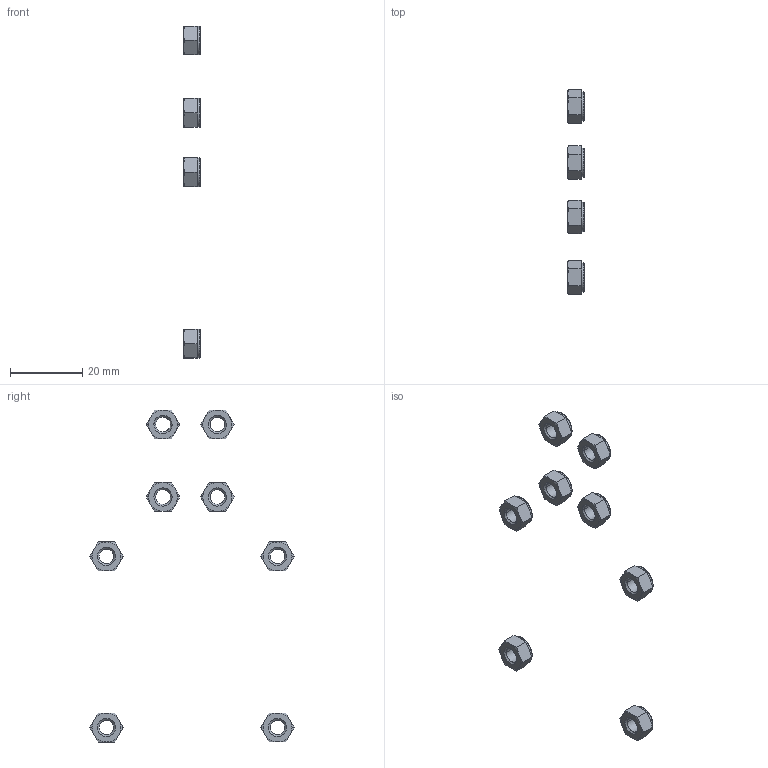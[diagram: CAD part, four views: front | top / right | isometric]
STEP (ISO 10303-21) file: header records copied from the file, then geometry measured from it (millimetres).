
FILE_DESCRIPTION(/* description */ (''),/* implementation_level */ '2;1');
FILE_NAME(/* name */ '6.y-drive#6.1#PACK-UNUT5',/* time_stamp */ '2014-12-01T20:13:55+01:00',/* author */ (''),/* organization */ (''),/* preprocessor_version */ 'ST-DEVELOPER v14',/* originating_system */ '',/* authorisation */ '');
FILE_SCHEMA (('AUTOMOTIVE_DESIGN'));
Length unit declared in the file: millimetre
Products named in the file (2): Document; nut DIN985-like, lock, M5
Assembly tree (4 placements, depth 2):
  Document
    nut DIN985-like, lock, M5  x4
Bounding box: 4.65 x 56.44 x 91.6 mm (x, y, z)
Volume: 1407.8 mm3; surface area: 2174 mm2
Topology: 8 solids, 8 shells, 432 faces, 1040 edges, 624 vertices
Faces by surface type: bspline 248, plane 184
Entity records: 17698 total; most frequent: CARTESIAN_POINT 9557, ORIENTED_EDGE 1300, PCURVE 1300, DEFINITIONAL_REPRESENTATION 1300, B_SPLINE_CURVE_WITH_KNOTS 1245, SURFACE_CURVE 650, EDGE_CURVE 650, VERTEX_POINT 390
